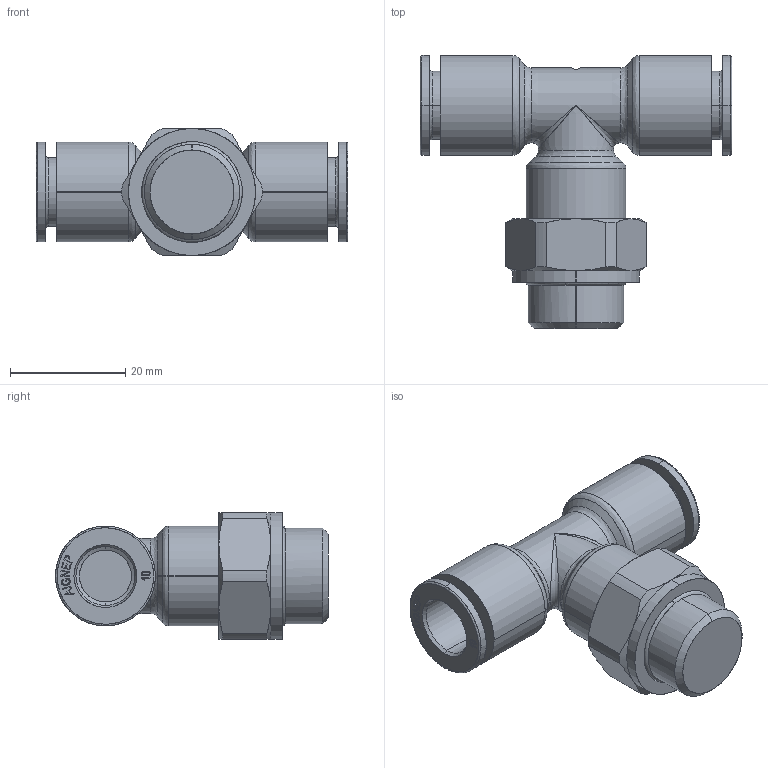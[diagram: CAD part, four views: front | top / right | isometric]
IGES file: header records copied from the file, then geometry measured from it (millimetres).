
Start section: SolidWorks IGES file using analytic representation for surfaces
Global section: file name: K:\Disegni Esecutivi\SERIE 54000\54000-Assiemi\54217\IGES e STEP\5421700022A.IGS; native system: SolidWorks 2020; preprocessor: SolidWorks 2020; author: LUCA COMETTI; date: 250701.110915; units: millimetre
Bounding box: 54 x 47.3 x 22 mm (x, y, z)
Surface area: 7464.8 mm2 (no closed solid volume)
Topology: 0 solids, 0 shells, 295 faces, 2961 edges, 2957 vertices
Faces by surface type: bspline 229, revolution 66
